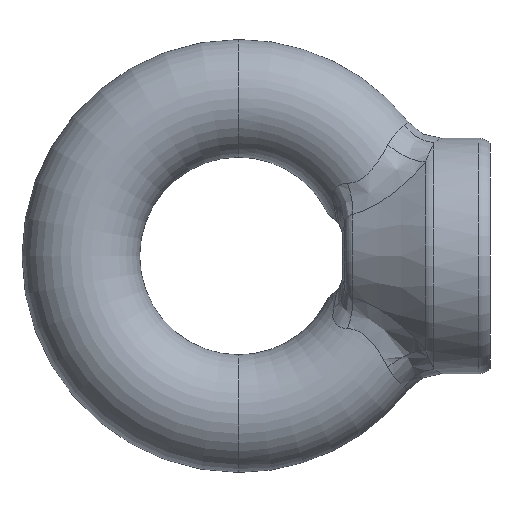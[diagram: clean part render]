
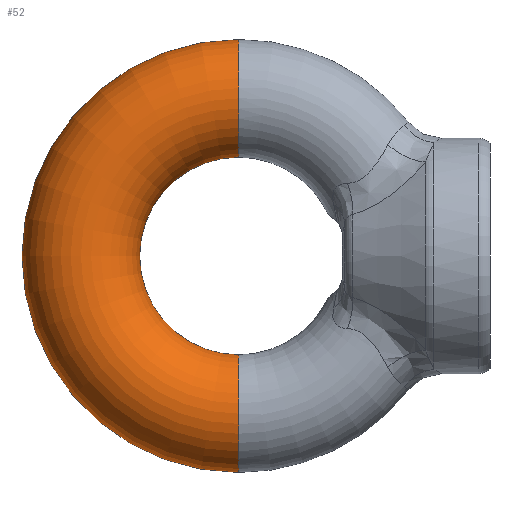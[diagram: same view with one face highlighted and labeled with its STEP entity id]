
A CAD part, front view. The second image highlights one B-rep face of the part: STEP entity #52.
In plain terms, the highlighted toroidal (fillet/blend) face has major radius 18.75 mm and minor radius 7 mm.
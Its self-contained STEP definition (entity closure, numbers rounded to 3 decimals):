
#12 = VERTEX_POINT ( 'NONE', #15058 ) ;
#15 = ORIENTED_EDGE ( 'NONE', *, *, #68, .T. ) ;
#30 = EDGE_CURVE ( 'NONE', #12, #58, #15117, .T. ) ;
#34 = ORIENTED_EDGE ( 'NONE', *, *, #30, .F. ) ;
#41 = ORIENTED_EDGE ( 'NONE', *, *, #46, .T. ) ;
#46 = EDGE_CURVE ( 'NONE', #50, #62, #15170, .T. ) ;
#49 = EDGE_CURVE ( 'NONE', #50, #12, #15226, .T. ) ;
#50 = VERTEX_POINT ( 'NONE', #15222 ) ;
#51 = EDGE_LOOP ( 'NONE', ( #53, #41, #15, #34 ) ) ;
#52 = ADVANCED_FACE ( 'NONE', ( #15221 ), #15220, .T. ) ;
#53 = ORIENTED_EDGE ( 'NONE', *, *, #49, .F. ) ;
#58 = VERTEX_POINT ( 'NONE', #15209 ) ;
#62 = VERTEX_POINT ( 'NONE', #15262 ) ;
#68 = EDGE_CURVE ( 'NONE', #62, #58, #15260, .T. ) ;
#15058 = CARTESIAN_POINT ( 'NONE',  ( 0., 0., 11.75 ) ) ;
#15113 = DIRECTION ( 'NONE',  ( 0., 0., -1. ) ) ;
#15114 = DIRECTION ( 'NONE',  ( 0., -1., 0. ) ) ;
#15115 = CARTESIAN_POINT ( 'NONE',  ( 0., 0., 0. ) ) ;
#15116 = AXIS2_PLACEMENT_3D ( 'NONE', #15115, #15114, #15113 ) ;
#15117 = CIRCLE ( 'NONE', #15116, 11.75 ) ;
#15166 = DIRECTION ( 'NONE',  ( 0., 0., -1. ) ) ;
#15167 = DIRECTION ( 'NONE',  ( 0., -1., 0. ) ) ;
#15168 = CARTESIAN_POINT ( 'NONE',  ( 0., 0., 0. ) ) ;
#15169 = AXIS2_PLACEMENT_3D ( 'NONE', #15168, #15167, #15166 ) ;
#15170 = CIRCLE ( 'NONE', #15169, 25.75 ) ;
#15209 = CARTESIAN_POINT ( 'NONE',  ( 0., 0., -11.75 ) ) ;
#15216 = DIRECTION ( 'NONE',  ( 0., 0., -1. ) ) ;
#15217 = DIRECTION ( 'NONE',  ( 0., -1., 0. ) ) ;
#15218 = CARTESIAN_POINT ( 'NONE',  ( 0., 0., 0. ) ) ;
#15219 = AXIS2_PLACEMENT_3D ( 'NONE', #15218, #15217, #15216 ) ;
#15220 = TOROIDAL_SURFACE ( 'NONE', #15219, 18.75, 7. ) ;
#15221 = FACE_OUTER_BOUND ( 'NONE', #51, .T. ) ;
#15222 = CARTESIAN_POINT ( 'NONE',  ( 0., 0., 25.75 ) ) ;
#15223 = DIRECTION ( 'NONE',  ( 0., 0., -1. ) ) ;
#15224 = DIRECTION ( 'NONE',  ( 1., 0., 0. ) ) ;
#15225 = AXIS2_PLACEMENT_3D ( 'NONE', #15233, #15224, #15223 ) ;
#15226 = CIRCLE ( 'NONE', #15225, 7. ) ;
#15233 = CARTESIAN_POINT ( 'NONE',  ( 0., 0., 18.75 ) ) ;
#15240 = DIRECTION ( 'NONE',  ( 0., 0., 1. ) ) ;
#15241 = DIRECTION ( 'NONE',  ( -1., 0., 0. ) ) ;
#15242 = CARTESIAN_POINT ( 'NONE',  ( 0., 0., -18.75 ) ) ;
#15243 = AXIS2_PLACEMENT_3D ( 'NONE', #15242, #15241, #15240 ) ;
#15260 = CIRCLE ( 'NONE', #15243, 7. ) ;
#15262 = CARTESIAN_POINT ( 'NONE',  ( 0., 0., -25.75 ) ) ;
